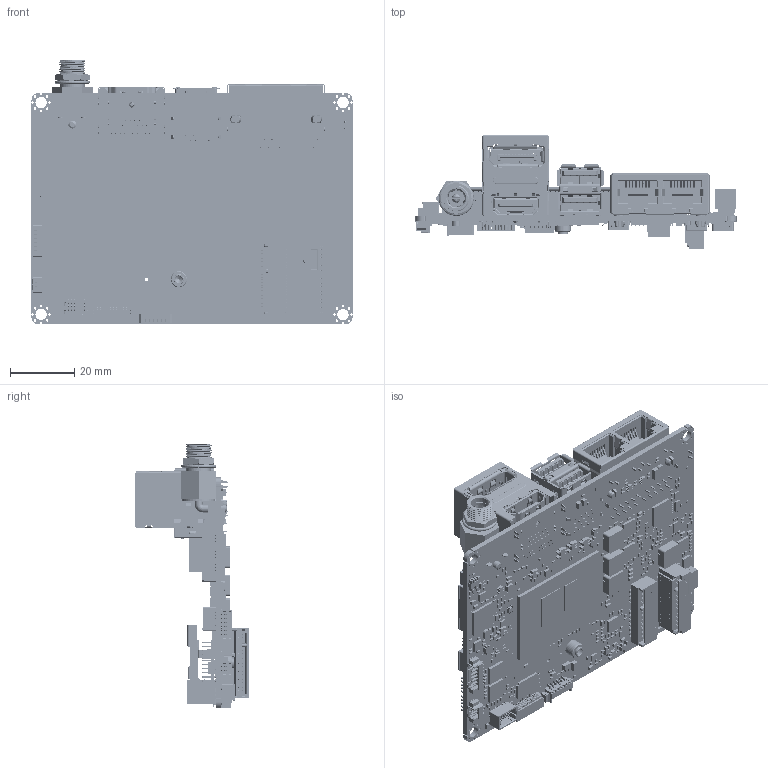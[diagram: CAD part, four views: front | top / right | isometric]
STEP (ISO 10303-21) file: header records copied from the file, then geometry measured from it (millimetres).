
FILE_DESCRIPTION((''),'2;1');
FILE_NAME('01-EPX-TWLP_ASM','2025-09-08T08:28:23',('frank_lu'),(''),'CREO PARAMETRIC BY PTC INC, 2024273','CREO PARAMETRIC BY PTC INC, 2024273','');
FILE_SCHEMA(('CONFIG_CONTROL_DESIGN','GEOMETRIC_VALIDATION_PROPERTIES_MIM'));
Products named in the file (96): EPX-TWLP-PCB; E14S4009700H; E16H3361102R; E16F1439030H; E16D5I00301R; E16G2282403R; E1662210201H; E16C4070004H; E1672505200H; E1612620000R; E1612520000R; E1672515200H; E1673210130H; E16A38D140DH; E1660611202H; E1672506200H; E1672510111R; E1660211203H; E16BB671030H; E16BB671039H; E193A3003X3R; E1600020201R; E1212206811H_L6-COLI; E1212201520H_PL1-COIL; E1212202212H_L10-COIL; E1212201511H_L7_L8-COIL; E14S4022602H-U14-U16; EPX-TWLP-20250401; E14S3233101H; E14S4930600H; E1314074010H; A-UKCA-S; A-FCC_H132; A-CE_H132; E1304400045H; E118X633761H; E1304300042H; E1752520002H; E14S5F15703H; E14S4961700H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
Assembly tree (1001 placements, depth 3):
  01-EPX-TWLP_ASM
    EPX-TWLP-PCB
    E14S4009700H
    E16H3361102R
    E16F1439030H
    E16D5I00301R
    E16G2282403R
    E1662210201H
    E16C4070004H
    E1672505200H
    E1612620000R
    E1612520000R  x2
    E1672515200H
    E1673210130H
    E16A38D140DH
    E1660611202H  x2
    E1672506200H
    E1672510111R
    E1660211203H
    E16BB671030H
    E16BB671039H
    E193A3003X3R
    E1600020201R
    E1212206811H_L6-COLI
    E1212201520H_PL1-COIL
    E1212202212H_L10-COIL
    E1212201511H_L7_L8-COIL  x2
    E14S4022602H-U14-U16  x2
    EPX-TWLP-20250401
    EPX-TWLP_A11-250401_ASM
      E14S3233101H
      E14S4930600H
      E1314074010H
      A-UKCA-S
      A-FCC_H132
      A-CE_H132
      E1304400045H
      E118X633761H  x9
      E1304300042H
      E1752520002H
      E14S5F15703H
      E14S4961700H
      E121310400A000H
      E1301581741H  x2
      E0030000000  x23
      _XXX  x4
      E0030100000  x4
      E1213103004H  x5
      E105B501036H-Y1  x93
      E11216105A0H-M1  x46
      E123133272AH
      E1213108003H  x5
      E10185003CAH-P1
      A-C0805  x12
      A-C0603  x76
      A-R0603  x31
      E1301034041H
      A-R0402  x236
      E1212204718H
      E1212206827000H
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Bounding box: 100 x 35.35 x 82.4 mm (x, y, z)
Volume: 28996.4 mm3; surface area: 65578.6 mm2
Topology: 1084 solids, 1330 shells, 41607 faces, 111173 edges, 72489 vertices
Faces by surface type: plane 33625, cylinder 7362, bspline 331, torus 92, extrusion 91, cone 76, sphere 30
Entity records: 1261345 total; most frequent: CARTESIAN_POINT 231006, ORIENTED_EDGE 192876, DIRECTION 179763, EDGE_CURVE 96452, VECTOR 79897, LINE 79806, VERTEX_POINT 62749, AXIS2_PLACEMENT_3D 49933
